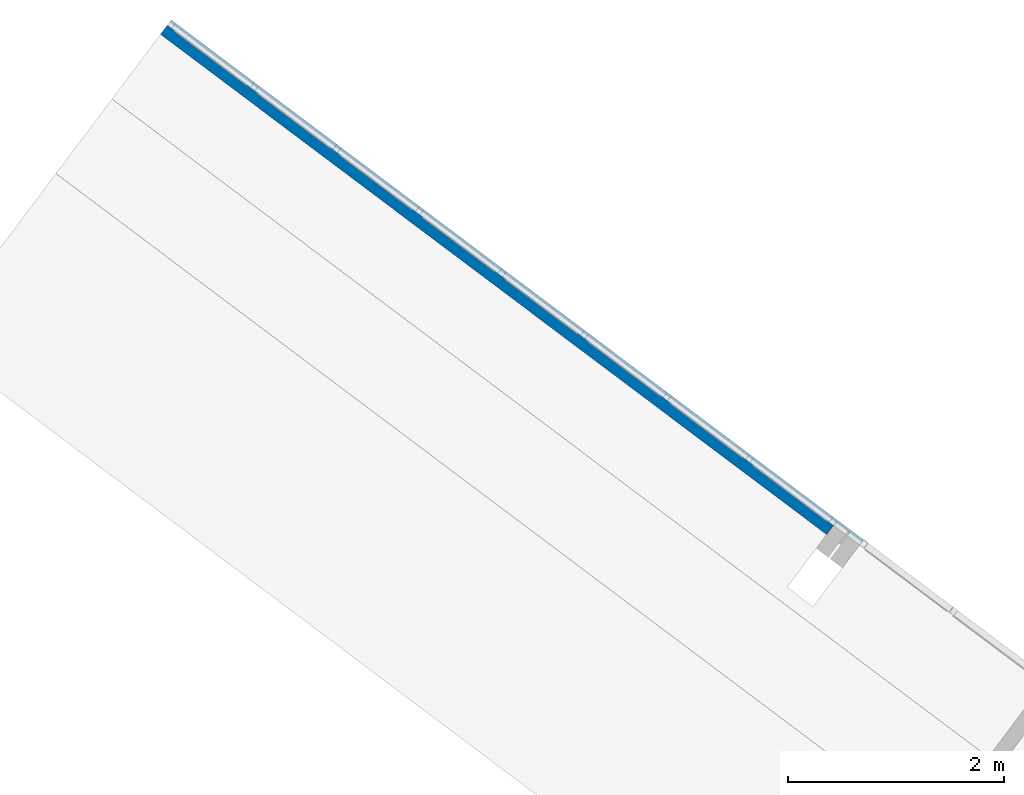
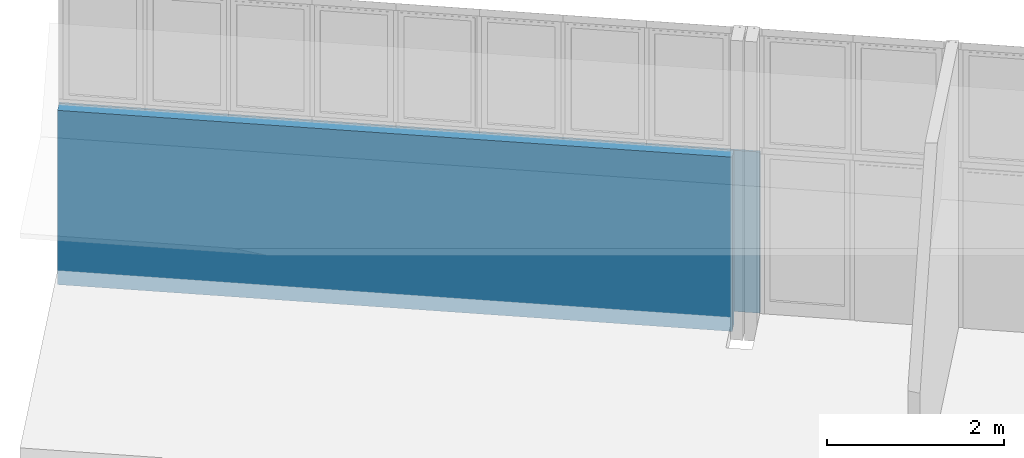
# One storey, part 8 of 18: 2 walls.
"""IFC2X3 building model written with IfcOpenShell, lengths in metres."""

from ifc_helpers import new_model, entity, si_unit, converted_unit, derived_unit, direction, frame, frame_2d, origin, place, context, subcontext, project, spatial, rectangle, extrude, material, layer, layer_set, layer_usage, type_object, element, save


model = new_model("IFC2X3")

# Units and contexts
model_context = context("Model", 3, precision=1e-05, world=origin(), true_north=direction((6.123031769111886e-17, 1.0)))
body_context = subcontext(model_context, "Body", "Model", "MODEL_VIEW")
ifc_project = project(units=[si_unit("LENGTHUNIT", "METRE"), si_unit("AREAUNIT", "SQUARE_METRE"), si_unit("VOLUMEUNIT", "CUBIC_METRE"), converted_unit("PLANEANGLEUNIT", "DEGREE", entity("IfcRatioMeasure", 0.017453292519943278), si_unit("PLANEANGLEUNIT", "RADIAN"), dimensions=[0, 0, 0, 0, 0, 0, 0]), si_unit("MASSUNIT", "GRAM", prefix="KILO"), derived_unit("MASSDENSITYUNIT", [(si_unit("MASSUNIT", "GRAM", prefix="KILO"), 1), (si_unit("LENGTHUNIT", "METRE"), -3)]), derived_unit("IONCONCENTRATIONUNIT", [(si_unit("MASSUNIT", "GRAM", prefix="KILO"), 1), (si_unit("LENGTHUNIT", "METRE"), -3)]), derived_unit("MOMENTOFINERTIAUNIT", [(si_unit("LENGTHUNIT", "METRE"), 4)]), si_unit("TIMEUNIT", "SECOND"), si_unit("FREQUENCYUNIT", "HERTZ"), si_unit("THERMODYNAMICTEMPERATUREUNIT", "DEGREE_CELSIUS"), derived_unit("THERMALTRANSMITTANCEUNIT", [(si_unit("MASSUNIT", "GRAM", prefix="KILO"), 1), (si_unit("THERMODYNAMICTEMPERATUREUNIT", "KELVIN"), -1), (si_unit("TIMEUNIT", "SECOND"), -3)]), derived_unit("THERMALCONDUCTANCEUNIT", [(si_unit("MASSUNIT", "GRAM", prefix="KILO"), 1), (si_unit("THERMODYNAMICTEMPERATUREUNIT", "KELVIN"), -1), (si_unit("TIMEUNIT", "SECOND"), -3), (si_unit("LENGTHUNIT", "METRE"), 1)]), derived_unit("VOLUMETRICFLOWRATEUNIT", [(si_unit("LENGTHUNIT", "METRE"), 3), (si_unit("TIMEUNIT", "SECOND"), -1)]), derived_unit("MASSFLOWRATEUNIT", [(si_unit("MASSUNIT", "GRAM", prefix="KILO"), 1), (si_unit("TIMEUNIT", "SECOND"), -1)]), derived_unit("ROTATIONALFREQUENCYUNIT", [(si_unit("TIMEUNIT", "SECOND"), -1)]), si_unit("ELECTRICCURRENTUNIT", "AMPERE"), si_unit("ELECTRICVOLTAGEUNIT", "VOLT"), si_unit("POWERUNIT", "WATT"), si_unit("FORCEUNIT", "NEWTON", prefix="KILO"), si_unit("ILLUMINANCEUNIT", "LUX"), si_unit("LUMINOUSFLUXUNIT", "LUMEN"), si_unit("LUMINOUSINTENSITYUNIT", "CANDELA"), derived_unit("USERDEFINED", [(si_unit("MASSUNIT", "GRAM", prefix="KILO"), -1), (si_unit("LENGTHUNIT", "METRE"), -2), (si_unit("TIMEUNIT", "SECOND"), 3), (si_unit("LUMINOUSFLUXUNIT", "LUMEN"), 1)]), derived_unit("USERDEFINED", [(si_unit("MASSUNIT", "GRAM", prefix="KILO"), 1), (si_unit("TIMEUNIT", "SECOND"), -3), (si_unit("LENGTHUNIT", "METRE"), 3), (si_unit("ELECTRICCURRENTUNIT", "AMPERE"), -2)]), derived_unit("SOUNDPOWERUNIT", [(si_unit("MASSUNIT", "GRAM", prefix="KILO"), 1), (si_unit("TIMEUNIT", "SECOND"), -3), (si_unit("LENGTHUNIT", "METRE"), 2)]), derived_unit("SOUNDPRESSUREUNIT", [(si_unit("MASSUNIT", "GRAM", prefix="KILO"), 1), (si_unit("LENGTHUNIT", "METRE"), -1), (si_unit("TIMEUNIT", "SECOND"), -2)]), derived_unit("LINEARVELOCITYUNIT", [(si_unit("LENGTHUNIT", "METRE"), 1), (si_unit("TIMEUNIT", "SECOND"), -1)]), si_unit("PRESSUREUNIT", "PASCAL"), derived_unit("USERDEFINED", [(si_unit("MASSUNIT", "GRAM", prefix="KILO"), 1), (si_unit("LENGTHUNIT", "METRE"), -2), (si_unit("TIMEUNIT", "SECOND"), -2)]), derived_unit("LINEARFORCEUNIT", [(si_unit("MASSUNIT", "GRAM", prefix="KILO"), 1), (si_unit("TIMEUNIT", "SECOND"), -2)]), derived_unit("PLANARFORCEUNIT", [(si_unit("MASSUNIT", "GRAM", prefix="KILO"), 1), (si_unit("LENGTHUNIT", "METRE"), -1), (si_unit("TIMEUNIT", "SECOND"), -2)]), derived_unit("SPECIFICHEATCAPACITYUNIT", [(si_unit("THERMODYNAMICTEMPERATUREUNIT", "KELVIN"), -1), (si_unit("LENGTHUNIT", "METRE"), 2), (si_unit("TIMEUNIT", "SECOND"), -2)]), derived_unit("HEATINGVALUEUNIT", [(si_unit("LENGTHUNIT", "METRE"), 2), (si_unit("TIMEUNIT", "SECOND"), -2)]), derived_unit("VAPORPERMEABILITYUNIT", [(si_unit("LENGTHUNIT", "METRE"), -1), (si_unit("TIMEUNIT", "SECOND"), 1)]), derived_unit("DYNAMICVISCOSITYUNIT", [(si_unit("MASSUNIT", "GRAM", prefix="KILO"), 1), (si_unit("TIMEUNIT", "SECOND"), -1), (si_unit("LENGTHUNIT", "METRE"), -1)]), derived_unit("THERMALEXPANSIONCOEFFICIENTUNIT", [(si_unit("THERMODYNAMICTEMPERATUREUNIT", "KELVIN"), -1)]), derived_unit("MODULUSOFELASTICITYUNIT", [(si_unit("MASSUNIT", "GRAM", prefix="KILO"), 1), (si_unit("LENGTHUNIT", "METRE"), -1), (si_unit("TIMEUNIT", "SECOND"), -2)]), derived_unit("ISOTHERMALMOISTURECAPACITYUNIT", [(si_unit("LENGTHUNIT", "METRE"), 3), (si_unit("MASSUNIT", "GRAM", prefix="KILO"), -1)]), derived_unit("MOISTUREDIFFUSIVITYUNIT", [(si_unit("TIMEUNIT", "SECOND"), -1), (si_unit("LENGTHUNIT", "METRE"), 2)])], contexts=[model_context])

# Site, building, storey
site_placement = place(None, frame((0.0, 0.0, 235.0), z_axis=(0.0, 0.0, 1.0), x_axis=(-0.7996477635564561, 0.6004693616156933, 0.0)))
site = spatial("IfcSite", under=ifc_project, at=site_placement, Name="Default", CompositionType="ELEMENT")
building_placement = place(site_placement, origin())
building = spatial("IfcBuilding", under=site, at=building_placement, CompositionType="ELEMENT")
storey_placement = place(building_placement, frame((0.0, 0.0, -4.459999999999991)))
storey = spatial("IfcBuildingStorey", under=building, at=storey_placement, Name="PS1- Vestuari", CompositionType="ELEMENT", Elevation=-4.459999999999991)

# Walls
ifc_material_1 = material(Name="_Ceràmica- ENV")
ifc_layer_1 = layer(ifc_material_1, 0.14)
ifc_layer_set_1 = layer_set([ifc_layer_1], Name="Muro básico:ENV- Ceràmic- 14 cm")
ifc_layer_usage_1 = layer_usage(ifc_layer_set_1, "AXIS2", "POSITIVE", -0.07)
wall_type_1 = type_object("IfcWallType", Name="Muro básico:ENV- Ceràmic- 14 cm", PredefinedType="STANDARD", material=ifc_layer_set_1)
wall_1_placement = place(storey_placement, frame((74.44514768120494, -40.37019175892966, -0.2), z_axis=(0.0, 0.0, 1.0), x_axis=(-1.0, 0.0, 0.0)))
element("IfcWallStandardCase", 1, at=wall_1_placement, inside=storey, type_object=wall_type_1, material=ifc_layer_usage_1, Name="Muro básico:ENV- Ceràmic- 14 cm", ObjectType="Muro básico:ENV- Ceràmic- 14 cm", context=body_context, shape_type="SweptSolid", body=[
    extrude(rectangle(XDim=7.699999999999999, YDim=0.14000000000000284, at=frame_2d((3.8499999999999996, -6.245004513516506e-17), x_axis=(-1.0, 0.0))), origin(), (0.0, 0.0, 1.0), 2.41),
])
ifc_material_2 = material(Name="_Enrajolat Gresite- REV- PAV")
ifc_layer_2 = layer(ifc_material_2, 0.01)
ifc_material_3 = material(Name="_Morter Base - REV")
ifc_layer_3 = layer(ifc_material_3, 0.015)
ifc_layer_set_2 = layer_set([ifc_layer_2, ifc_layer_3], Name="Muro básico:REV- Enrajolat Gresite- T1- 2,5 cm")
ifc_layer_usage_2 = layer_usage(ifc_layer_set_2, "AXIS2", "POSITIVE", -0.0125)
wall_type_2 = type_object("IfcWallType", Name="Muro básico:REV- Enrajolat Gresite- T1- 2,5 cm", PredefinedType="STANDARD", material=ifc_layer_set_2)
wall_2_placement = place(storey_placement, frame((66.44514768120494, -40.45269175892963, -0.019999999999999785)))
element("IfcWallStandardCase", 2, at=wall_2_placement, inside=storey, type_object=wall_type_2, material=ifc_layer_usage_2, Name="Muro básico:REV- Enrajolat Gresite- T1- 2,5 cm", ObjectType="Muro básico:REV- Enrajolat Gresite- T1- 2,5 cm", context=body_context, shape_type="SweptSolid", body=[
    extrude(rectangle(XDim=8.0, YDim=0.02499999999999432, at=frame_2d((4.0, 0.0), x_axis=(-1.0, 0.0))), origin(), (0.0, 0.0, 1.0), 2.23),
])

save(model, "model.ifc")
